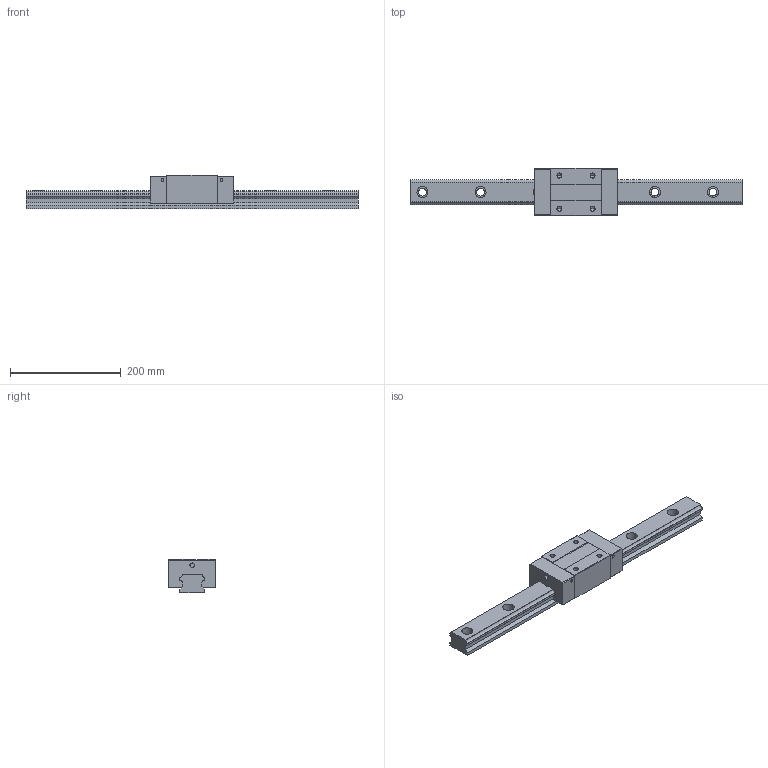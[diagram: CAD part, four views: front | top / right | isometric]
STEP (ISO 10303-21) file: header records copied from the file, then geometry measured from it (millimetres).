
FILE_DESCRIPTION (( 'STEP AP203' ), '1' );
FILE_NAME ('TRS45VN-DZ.STEP', '2024-06-28T07:34:17', ( '' ), ( '' ), 'SwSTEP 2.0', 'SolidWorks 2022', '' );
FILE_SCHEMA (( 'CONFIG_CONTROL_DESIGN' ));
Length unit declared in the file: millimetre
Products named in the file (1): TRS45VN-DZ
Bounding box: 600 x 85.5 x 60 mm (x, y, z)
Volume: 1219954 mm3; surface area: 165743.2 mm2
Topology: 2 solids, 2 shells, 180 faces, 472 edges, 304 vertices
Faces by surface type: plane 84, cylinder 80, cone 16
Entity records: 5607 total; most frequent: DIRECTION 994, CARTESIAN_POINT 949, ORIENTED_EDGE 928, EDGE_CURVE 464, AXIS2_PLACEMENT_3D 349, VERTEX_POINT 304, VECTOR 296, LINE 296
